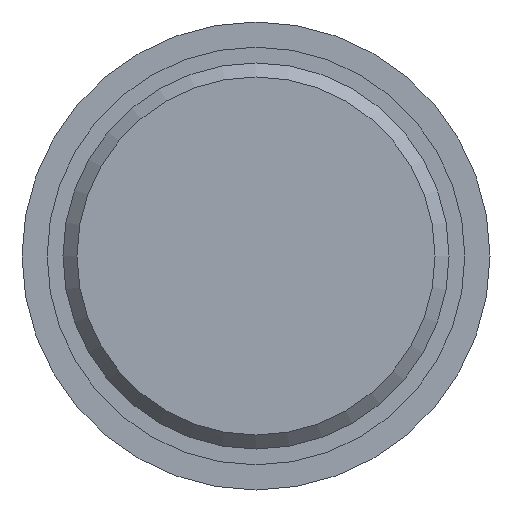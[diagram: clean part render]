
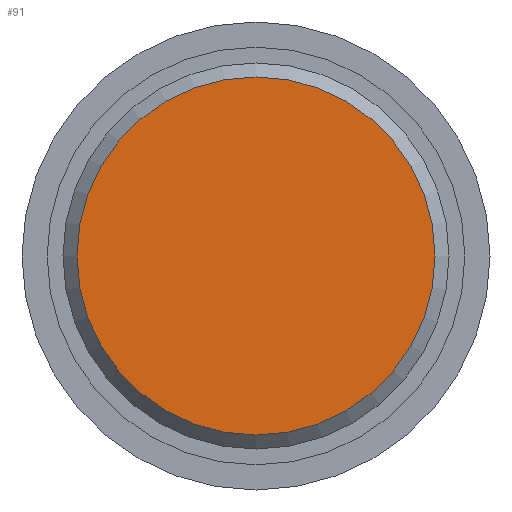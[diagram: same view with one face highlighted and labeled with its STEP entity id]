
A CAD part, front view. The second image highlights one B-rep face of the part: STEP entity #91.
In plain terms, the highlighted planar face has unit normal (0, -1, 0).
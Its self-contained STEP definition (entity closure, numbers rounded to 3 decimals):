
#91 = ADVANCED_FACE( '', ( #138 ), #139, .F. );
#138 = FACE_OUTER_BOUND( '', #193, .T. );
#139 = PLANE( '', #194 );
#193 = EDGE_LOOP( '', ( #308 ) );
#194 = AXIS2_PLACEMENT_3D( '', #309, #310, #311 );
#308 = ORIENTED_EDGE( '', *, *, #359, .T. );
#309 = CARTESIAN_POINT( '', ( 15.3, 0., 0. ) );
#310 = DIRECTION( '', ( 0., 1., 0. ) );
#311 = DIRECTION( '', ( 0., 0., 1. ) );
#359 = EDGE_CURVE( '', #411, #411, #412, .T. );
#411 = VERTEX_POINT( '', #485 );
#412 = CIRCLE( '', #486, 15.3 );
#485 = CARTESIAN_POINT( '', ( 0., 0., -15.3 ) );
#486 = AXIS2_PLACEMENT_3D( '', #538, #539, #540 );
#538 = CARTESIAN_POINT( '', ( 0., 0., 0. ) );
#539 = DIRECTION( '', ( 0., -1., 0. ) );
#540 = DIRECTION( '', ( 0., 0., -1. ) );
